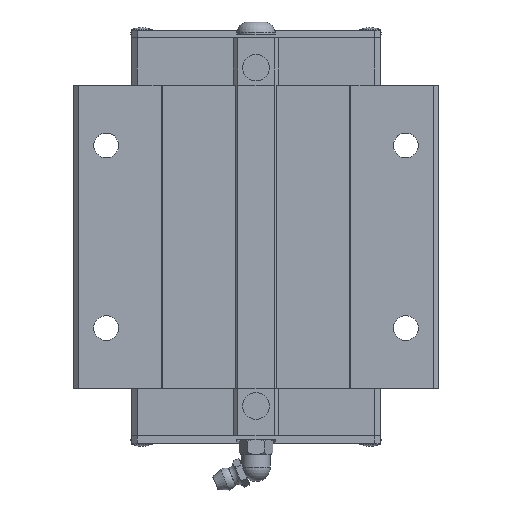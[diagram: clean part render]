
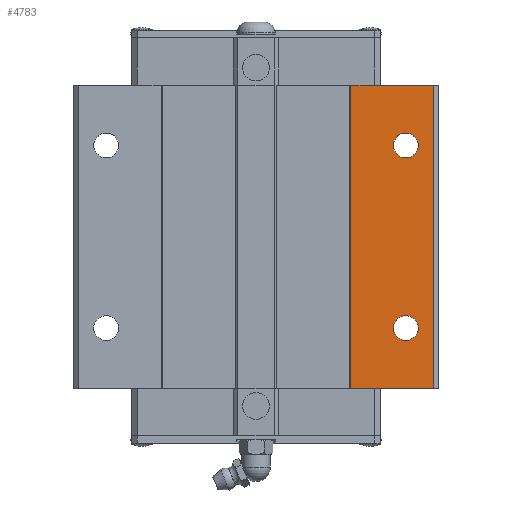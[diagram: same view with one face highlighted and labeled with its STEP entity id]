
A CAD part, top view. The second image highlights one B-rep face of the part: STEP entity #4783.
In plain terms, the highlighted planar face has unit normal (0, 0, 1).
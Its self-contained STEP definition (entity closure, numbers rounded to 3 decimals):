
#2201=EDGE_CURVE('',#3055,#5545,#6120,.T.);
#2219=VERTEX_POINT('',#6138);
#2695=VERTEX_POINT('',#6660);
#2797=VERTEX_POINT('',#6777);
#2987=EDGE_CURVE('',#2219,#5373,#6995,.T.);
#3049=VERTEX_POINT('',#7060);
#3055=VERTEX_POINT('',#7066);
#3285=EDGE_CURVE('',#5373,#4563,#7317,.T.);
#3505=EDGE_CURVE('',#5545,#3055,#7559,.T.);
#4355=EDGE_CURVE('',#2695,#3049,#8497,.T.);
#4563=VERTEX_POINT('',#8715);
#4783=ADVANCED_FACE('',(#8955,#8956,#8957),#8958,.T.);
#5177=EDGE_CURVE('',#2797,#4563,#9386,.T.);
#5193=EDGE_CURVE('',#2797,#2219,#9403,.T.);
#5373=VERTEX_POINT('',#9597);
#5545=VERTEX_POINT('',#9785);
#5709=EDGE_CURVE('',#3049,#2695,#9964,.T.);
#6120=CIRCLE('',#10562,3.4);
#6138=CARTESIAN_POINT('',(26.0,98.0,48.0));
#6660=CARTESIAN_POINT('',(37.6,81.5,48.0));
#6777=CARTESIAN_POINT('',(48.5,98.0,48.0));
#6995=LINE('',#12033,#12034);
#7060=CARTESIAN_POINT('',(44.4,81.5,48.0));
#7066=CARTESIAN_POINT('',(44.4,31.5,48.0));
#7317=LINE('',#12561,#12562);
#7559=CIRCLE('',#13018,3.4);
#8497=CIRCLE('',#14537,3.4);
#8715=CARTESIAN_POINT('',(48.5,15.0,48.0));
#8955=FACE_OUTER_BOUND('',#15287,.T.);
#8956=FACE_BOUND('',#15288,.T.);
#8957=FACE_BOUND('',#15289,.T.);
#8958=PLANE('',#15290);
#9386=LINE('',#16027,#16028);
#9403=LINE('',#16052,#16053);
#9597=CARTESIAN_POINT('',(26.0,15.0,48.0));
#9785=CARTESIAN_POINT('',(37.6,31.5,48.0));
#9964=CIRCLE('',#16899,3.4);
#10562=AXIS2_PLACEMENT_3D('',#17558,#17559,#17560);
#12033=CARTESIAN_POINT('',(26.0,118.75,48.0));
#12034=VECTOR('',#18609,1.0);
#12561=CARTESIAN_POINT('',(48.5,15.0,48.0));
#12562=VECTOR('',#18927,1.0);
#13018=AXIS2_PLACEMENT_3D('',#19185,#19186,#19187);
#14537=AXIS2_PLACEMENT_3D('',#20275,#20276,#20277);
#15287=EDGE_LOOP('',(#20732,#20733,#20734,#20735));
#15288=EDGE_LOOP('',(#20736,#20737));
#15289=EDGE_LOOP('',(#20738,#20739));
#15290=AXIS2_PLACEMENT_3D('',#20740,#20741,#20742);
#16027=CARTESIAN_POINT('',(48.5,98.0,48.0));
#16028=VECTOR('',#21119,1.0);
#16052=CARTESIAN_POINT('',(48.5,98.0,48.0));
#16053=VECTOR('',#21133,1.0);
#16899=AXIS2_PLACEMENT_3D('',#21685,#21686,#21687);
#17558=CARTESIAN_POINT('',(41.0,31.5,48.0));
#17559=DIRECTION('',(0.0,0.0,-1.0));
#17560=DIRECTION('',(1.0,0.0,0.0));
#18609=DIRECTION('',(0.0,-1.0,0.0));
#18927=DIRECTION('',(1.0,0.0,0.0));
#19185=CARTESIAN_POINT('',(41.0,31.5,48.0));
#19186=DIRECTION('',(0.0,0.0,-1.0));
#19187=DIRECTION('',(1.0,0.0,0.0));
#20275=CARTESIAN_POINT('',(41.0,81.5,48.0));
#20276=DIRECTION('',(0.0,0.0,-1.0));
#20277=DIRECTION('',(1.0,0.0,0.0));
#20732=ORIENTED_EDGE('',*,*,#2987,.T.);
#20733=ORIENTED_EDGE('',*,*,#3285,.T.);
#20734=ORIENTED_EDGE('',*,*,#5177,.F.);
#20735=ORIENTED_EDGE('',*,*,#5193,.T.);
#20736=ORIENTED_EDGE('',*,*,#5709,.T.);
#20737=ORIENTED_EDGE('',*,*,#4355,.T.);
#20738=ORIENTED_EDGE('',*,*,#2201,.T.);
#20739=ORIENTED_EDGE('',*,*,#3505,.T.);
#20740=CARTESIAN_POINT('',(-48.5,98.0,48.0));
#20741=DIRECTION('',(0.0,0.0,1.0));
#20742=DIRECTION('',(-1.0,0.0,0.0));
#21119=DIRECTION('',(0.0,-1.0,0.0));
#21133=DIRECTION('',(-1.0,0.0,0.0));
#21685=CARTESIAN_POINT('',(41.0,81.5,48.0));
#21686=DIRECTION('',(0.0,0.0,-1.0));
#21687=DIRECTION('',(1.0,0.0,0.0));
